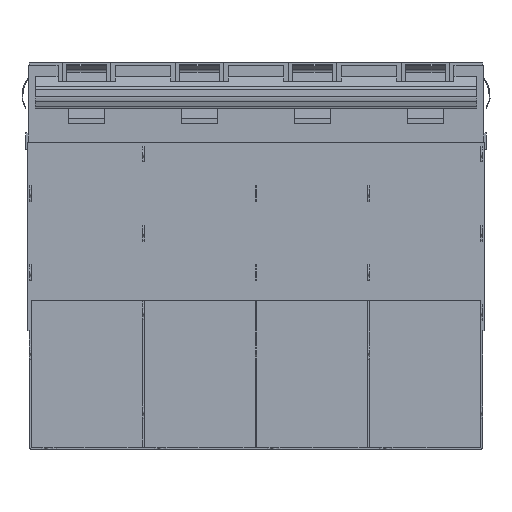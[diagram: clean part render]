
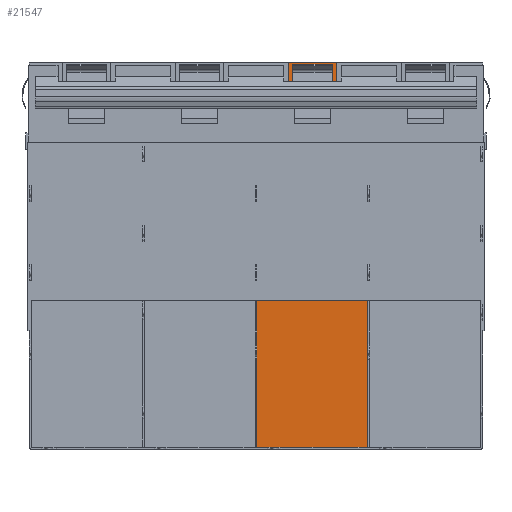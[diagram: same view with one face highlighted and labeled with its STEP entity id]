
A CAD part, front view. The second image highlights one B-rep face of the part: STEP entity #21547.
In plain terms, the highlighted planar face has unit normal (0, -1, 0).
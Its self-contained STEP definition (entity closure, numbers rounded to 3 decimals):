
#60 = EDGE_CURVE ( 'NONE', #10682, #11176, #11279, .T. ) ;
#585 = PLANE ( 'NONE',  #22580 ) ;
#1340 = EDGE_CURVE ( 'NONE', #17115, #11176, #22395, .T. ) ;
#2590 = DIRECTION ( 'NONE',  ( 0., 1., 0. ) ) ;
#2710 = ORIENTED_EDGE ( 'NONE', *, *, #60, .T. ) ;
#5777 = CARTESIAN_POINT ( 'NONE',  ( 14.125, 9.2, 8.953 ) ) ;
#6847 = ORIENTED_EDGE ( 'NONE', *, *, #7286, .F. ) ;
#7286 = EDGE_CURVE ( 'NONE', #8880, #17115, #20026, .T. ) ;
#7546 = CARTESIAN_POINT ( 'NONE',  ( 0.125, 9.2, 8.953 ) ) ;
#8763 = FACE_OUTER_BOUND ( 'NONE', #25492, .T. ) ;
#8880 = VERTEX_POINT ( 'NONE', #13935 ) ;
#9024 = ORIENTED_EDGE ( 'NONE', *, *, #1340, .F. ) ;
#10133 = CARTESIAN_POINT ( 'NONE',  ( 28.375, 9.2, -48.5 ) ) ;
#10659 = VECTOR ( 'NONE', #13282, 1000. ) ;
#10682 = VERTEX_POINT ( 'NONE', #14385 ) ;
#11176 = VERTEX_POINT ( 'NONE', #19986 ) ;
#11279 = LINE ( 'NONE', #7546, #10659 ) ;
#11780 = DIRECTION ( 'NONE',  ( 0., 0., -1. ) ) ;
#12441 = VECTOR ( 'NONE', #21209, 1000. ) ;
#13282 = DIRECTION ( 'NONE',  ( 0., 0., -1. ) ) ;
#13935 = CARTESIAN_POINT ( 'NONE',  ( 14.125, 9.2, 0. ) ) ;
#14385 = CARTESIAN_POINT ( 'NONE',  ( 0.125, 9.2, 0. ) ) ;
#14875 = CARTESIAN_POINT ( 'NONE',  ( 14.125, 9.2, -48.5 ) ) ;
#15467 = EDGE_CURVE ( 'NONE', #8880, #10682, #22325, .T. ) ;
#15755 = ORIENTED_EDGE ( 'NONE', *, *, #15467, .T. ) ;
#16099 = CARTESIAN_POINT ( 'NONE',  ( 28.375, 9.2, 0. ) ) ;
#16436 = VECTOR ( 'NONE', #22052, 1000. ) ;
#16486 = DIRECTION ( 'NONE',  ( 0., 0., 1. ) ) ;
#17115 = VERTEX_POINT ( 'NONE', #14875 ) ;
#19409 = VECTOR ( 'NONE', #11780, 1000. ) ;
#19986 = CARTESIAN_POINT ( 'NONE',  ( 0.125, 9.2, -48.5 ) ) ;
#20026 = LINE ( 'NONE', #5777, #19409 ) ;
#21209 = DIRECTION ( 'NONE',  ( -1., 0., 0. ) ) ;
#21547 = ADVANCED_FACE ( 'NONE', ( #8763 ), #585, .F. ) ;
#22052 = DIRECTION ( 'NONE',  ( -1., 0., 0. ) ) ;
#22325 = LINE ( 'NONE', #16099, #16436 ) ;
#22395 = LINE ( 'NONE', #10133, #12441 ) ;
#22580 = AXIS2_PLACEMENT_3D ( 'NONE', #24385, #2590, #16486 ) ;
#24385 = CARTESIAN_POINT ( 'NONE',  ( 28.375, 9.2, -106.201 ) ) ;
#25492 = EDGE_LOOP ( 'NONE', ( #6847, #15755, #2710, #9024 ) ) ;
